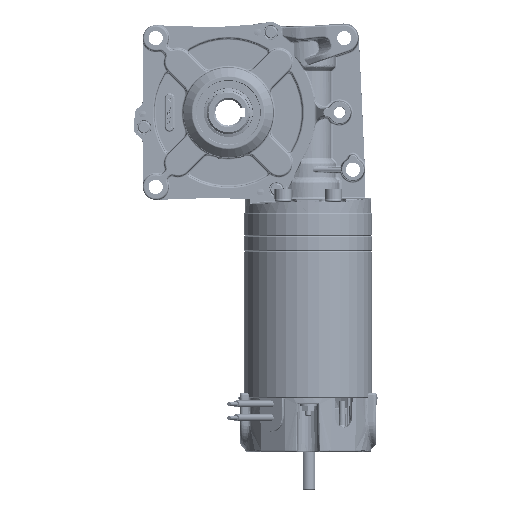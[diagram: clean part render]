
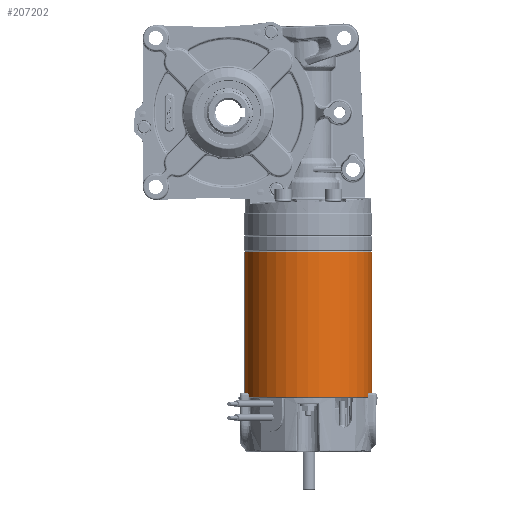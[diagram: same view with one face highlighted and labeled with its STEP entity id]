
A CAD part, left-side view. The second image highlights one B-rep face of the part: STEP entity #207202.
In plain terms, the highlighted cylindrical face has radius 37 mm (diameter 74 mm), a partial arc.
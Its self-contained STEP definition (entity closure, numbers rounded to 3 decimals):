
#617 = ORIENTED_EDGE ( 'NONE', *, *, #198358, .T. ) ;
#4707 = CARTESIAN_POINT ( 'NONE',  ( -126.805, -60.285, 19.184 ) ) ;
#9292 = EDGE_CURVE ( 'NONE', #132405, #32371, #61450, .T. ) ;
#18177 = CARTESIAN_POINT ( 'NONE',  ( -120.38, -96.723, -64.816 ) ) ;
#19426 = FACE_OUTER_BOUND ( 'NONE', #46739, .T. ) ;
#22717 = VERTEX_POINT ( 'NONE', #25221 ) ;
#25221 = CARTESIAN_POINT ( 'NONE',  ( -120.38, -96.723, 19.184 ) ) ;
#28113 = DIRECTION ( 'NONE',  ( 0., 0., -1. ) ) ;
#29255 = VECTOR ( 'NONE', #174158, 1000. ) ;
#30235 = LINE ( 'NONE', #142816, #91878 ) ;
#32371 = VERTEX_POINT ( 'NONE', #186943 ) ;
#46739 = EDGE_LOOP ( 'NONE', ( #198437, #104717, #617, #65271 ) ) ;
#53925 = DIRECTION ( 'NONE',  ( 0., 0., -1. ) ) ;
#55690 = CARTESIAN_POINT ( 'NONE',  ( -126.805, -60.285, 19.684 ) ) ;
#61450 = LINE ( 'NONE', #62514, #29255 ) ;
#62514 = CARTESIAN_POINT ( 'NONE',  ( -133.23, -23.847, 19.684 ) ) ;
#65271 = ORIENTED_EDGE ( 'NONE', *, *, #211137, .F. ) ;
#74936 = CIRCLE ( 'NONE', #105898, 37. ) ;
#84239 = AXIS2_PLACEMENT_3D ( 'NONE', #55690, #104145, #154401 ) ;
#90728 = CARTESIAN_POINT ( 'NONE',  ( -133.23, -23.847, 19.184 ) ) ;
#91878 = VECTOR ( 'NONE', #28113, 1000. ) ;
#93676 = DIRECTION ( 'NONE',  ( 0.174, -0.985, 0. ) ) ;
#103093 = CYLINDRICAL_SURFACE ( 'NONE', #84239, 37. ) ;
#104145 = DIRECTION ( 'NONE',  ( 0., 0., -1. ) ) ;
#104717 = ORIENTED_EDGE ( 'NONE', *, *, #9292, .T. ) ;
#105898 = AXIS2_PLACEMENT_3D ( 'NONE', #4707, #53925, #138669 ) ;
#108707 = CARTESIAN_POINT ( 'NONE',  ( -126.805, -60.285, -64.816 ) ) ;
#130406 = AXIS2_PLACEMENT_3D ( 'NONE', #108707, #157943, #93676 ) ;
#132405 = VERTEX_POINT ( 'NONE', #90728 ) ;
#138669 = DIRECTION ( 'NONE',  ( 0.174, -0.985, 0. ) ) ;
#140067 = VERTEX_POINT ( 'NONE', #18177 ) ;
#142816 = CARTESIAN_POINT ( 'NONE',  ( -120.38, -96.723, 19.684 ) ) ;
#150944 = CIRCLE ( 'NONE', #130406, 37. ) ;
#154401 = DIRECTION ( 'NONE',  ( 0.174, -0.985, 0. ) ) ;
#157943 = DIRECTION ( 'NONE',  ( 0., 0., 1. ) ) ;
#174158 = DIRECTION ( 'NONE',  ( 0., 0., -1. ) ) ;
#186943 = CARTESIAN_POINT ( 'NONE',  ( -133.23, -23.847, -64.816 ) ) ;
#197107 = EDGE_CURVE ( 'NONE', #22717, #132405, #74936, .T. ) ;
#198358 = EDGE_CURVE ( 'NONE', #32371, #140067, #150944, .T. ) ;
#198437 = ORIENTED_EDGE ( 'NONE', *, *, #197107, .T. ) ;
#207202 = ADVANCED_FACE ( 'NONE', ( #19426 ), #103093, .T. ) ;
#211137 = EDGE_CURVE ( 'NONE', #22717, #140067, #30235, .T. ) ;
